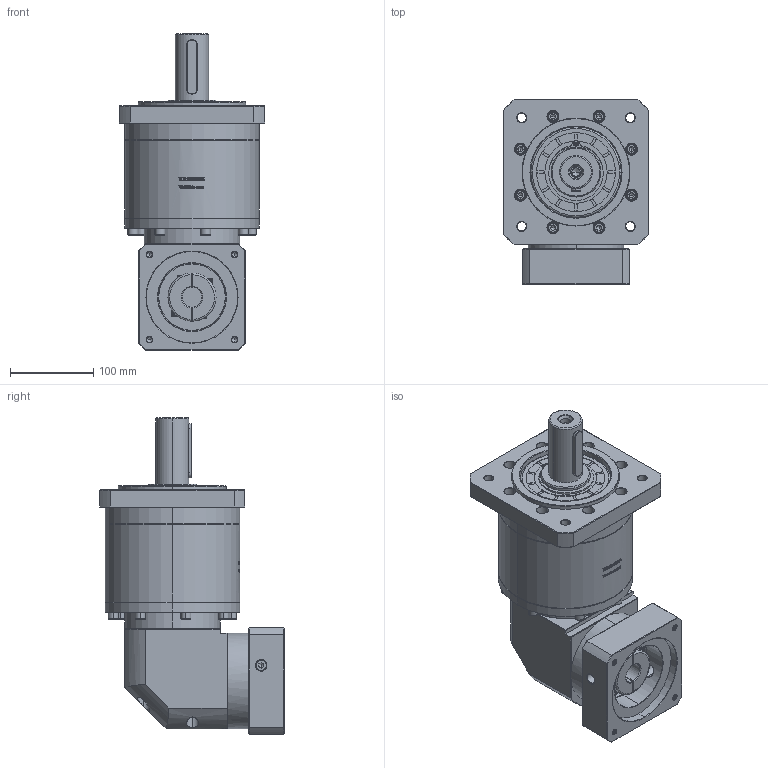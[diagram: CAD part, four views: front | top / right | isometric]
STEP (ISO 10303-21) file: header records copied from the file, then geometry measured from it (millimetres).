
FILE_DESCRIPTION (( 'STEP AP214' ), '1' );
FILE_NAME ('ZFR160A-D40-L3-24-110-145-M8.step', '2023-03-25T01:57:23', ( '' ), ( '' ), 'SwSTEP 2.0', 'SolidWorks 2016', '' );
FILE_SCHEMA (( 'AUTOMOTIVE_DESIGN' ));
Length unit declared in the file: millimetre
Products named in the file (1): ZFR160A-D40-L3-24-110-145-M8
Bounding box: 175 x 222.4 x 381.2 mm (x, y, z)
Volume: 5723979.8 mm3; surface area: 366932.8 mm2
Topology: 6 solids, 6 shells, 2783 faces, 7266 edges, 4656 vertices
Faces by surface type: plane 1373, bspline 497, cylinder 496, cone 371, torus 46
Entity records: 150150 total; most frequent: CARTESIAN_POINT 55532, ORIENTED_EDGE 14424, DIRECTION 11399, EDGE_CURVE 7212, VERTEX_POINT 4656, VECTOR 4503, LINE 4503, AXIS2_PLACEMENT_3D 3448
